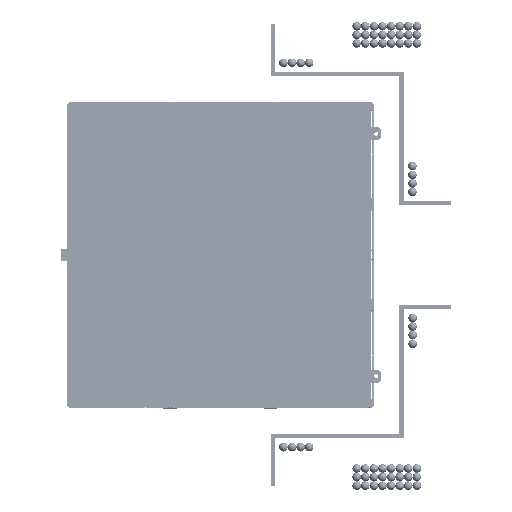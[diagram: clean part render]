
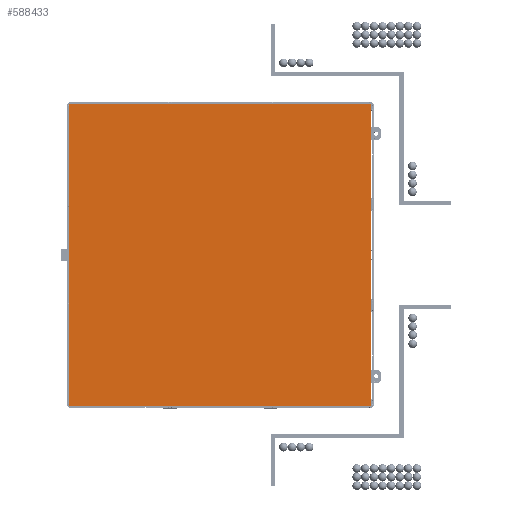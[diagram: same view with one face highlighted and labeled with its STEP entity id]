
A CAD part, front view. The second image highlights one B-rep face of the part: STEP entity #588433.
In plain terms, the highlighted planar face has unit normal (0, -1, 0).
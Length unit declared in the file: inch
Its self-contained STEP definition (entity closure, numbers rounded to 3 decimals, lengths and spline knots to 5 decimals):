
#10153 = ORIENTED_EDGE ( 'NONE', *, *, #535900, .F. ) ;
#13098 = PLANE ( 'NONE',  #992068 ) ;
#41721 = ORIENTED_EDGE ( 'NONE', *, *, #319997, .F. ) ;
#47234 = DIRECTION ( 'NONE',  ( 1., 0., 0. ) ) ;
#89605 = LINE ( 'NONE', #585404, #778390 ) ;
#92669 = CARTESIAN_POINT ( 'NONE',  ( -70.25, 0., -70.25 ) ) ;
#107197 = DIRECTION ( 'NONE',  ( 0., 1., 0. ) ) ;
#261999 = CARTESIAN_POINT ( 'NONE',  ( -70.25, 0., 70.25 ) ) ;
#271798 = VERTEX_POINT ( 'NONE', #703885 ) ;
#287009 = VERTEX_POINT ( 'NONE', #931995 ) ;
#318239 = DIRECTION ( 'NONE',  ( -1., 0., 0. ) ) ;
#319815 = ORIENTED_EDGE ( 'NONE', *, *, #1087070, .F. ) ;
#319997 = EDGE_CURVE ( 'NONE', #991188, #271798, #89605, .T. ) ;
#412384 = VECTOR ( 'NONE', #811609, 39.37008 ) ;
#423232 = FACE_OUTER_BOUND ( 'NONE', #1054192, .T. ) ;
#440671 = LINE ( 'NONE', #92669, #412384 ) ;
#458458 = VECTOR ( 'NONE', #318239, 39.37008 ) ;
#466931 = VECTOR ( 'NONE', #1045186, 39.37008 ) ;
#506888 = CARTESIAN_POINT ( 'NONE',  ( 70.25, 0., -70.25 ) ) ;
#535900 = EDGE_CURVE ( 'NONE', #271798, #778074, #945134, .T. ) ;
#585404 = CARTESIAN_POINT ( 'NONE',  ( -70.25, 0., 70.25 ) ) ;
#588433 = ADVANCED_FACE ( 'NONE', ( #423232 ), #13098, .F. ) ;
#606259 = EDGE_CURVE ( 'NONE', #287009, #991188, #440671, .T. ) ;
#620407 = ORIENTED_EDGE ( 'NONE', *, *, #606259, .F. ) ;
#697668 = LINE ( 'NONE', #946953, #458458 ) ;
#703885 = CARTESIAN_POINT ( 'NONE',  ( 70.25, 0., 70.25 ) ) ;
#735771 = DIRECTION ( 'NONE',  ( 0., 0., 1. ) ) ;
#778074 = VERTEX_POINT ( 'NONE', #964613 ) ;
#778390 = VECTOR ( 'NONE', #47234, 39.37008 ) ;
#811609 = DIRECTION ( 'NONE',  ( 0., 0., 1. ) ) ;
#931995 = CARTESIAN_POINT ( 'NONE',  ( -70.25, 0., -70.25 ) ) ;
#945134 = LINE ( 'NONE', #506888, #466931 ) ;
#946953 = CARTESIAN_POINT ( 'NONE',  ( -70.25, 0., -70.25 ) ) ;
#964613 = CARTESIAN_POINT ( 'NONE',  ( 70.25, 0., -70.25 ) ) ;
#991188 = VERTEX_POINT ( 'NONE', #261999 ) ;
#992068 = AXIS2_PLACEMENT_3D ( 'NONE', #1093311, #107197, #735771 ) ;
#1045186 = DIRECTION ( 'NONE',  ( 0., 0., -1. ) ) ;
#1054192 = EDGE_LOOP ( 'NONE', ( #620407, #319815, #10153, #41721 ) ) ;
#1087070 = EDGE_CURVE ( 'NONE', #778074, #287009, #697668, .T. ) ;
#1093311 = CARTESIAN_POINT ( 'NONE',  ( -70.25, 0., -70.25 ) ) ;
